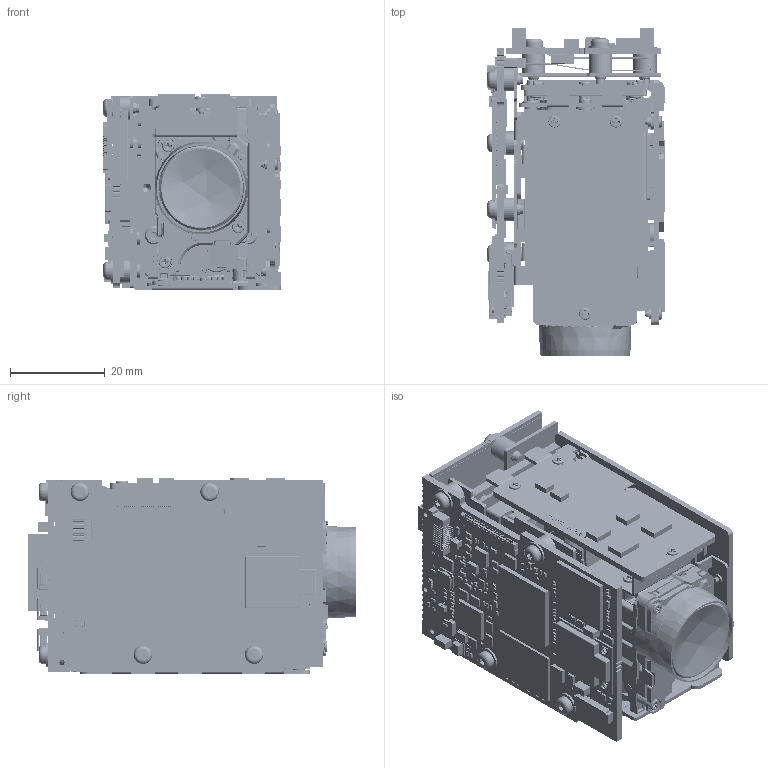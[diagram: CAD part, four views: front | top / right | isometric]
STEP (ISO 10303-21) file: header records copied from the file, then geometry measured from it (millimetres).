
FILE_DESCRIPTION( ( 'Unknown' ), '1' );
FILE_NAME( 'H:/Proj/Ap/AP29_IPLC/Tech/Hw/MM-AP29C01-0121-0101/mm-ap29c01-0121-0101.stp', 'Unknown', ( 'Unknown' ), ( 'Unknown' ), 'PSStep 17.0.49', 'Unknown', ' ' );
FILE_SCHEMA( ( 'AUTOMOTIVE_DESIGN { 1 0 10303 214 1 1 1 1 }' ) );
Length unit declared in the file: millimetre
Products named in the file (696): Lead-3; Open_CASCADE_STEP_translator_6.8_1.2.1; Lead-4; Lead-7; TMX-A001_SENSOR_Assy(OV4689); TMX-A001_S_SUB_PCB_1(OV4689); TMX-A001_PCB,SENSOR_1.2t(OV4689); TMX-A001_SCREW_1.4x3.0(WILCO); CN201(5035663300)MOLEX; TMX-A001_SENSOR(OV4689); Lead-5; Lead-1; Lead; Lead-6; Lead-2; Pin_Shape; Open_CASCADE_STEP_translator_6.8_17.4.1; 5993357248; body; TMX-A001_MAIN_Assy_0708_3; DEFAULT; DEFAULT-1; DEFAULT-2; TMX-A001_MAIN_PCB_Assy(A); TMX-A001_CON,FH39-39S-0.3SHW(10).2; CN201(5035663300)MOLEX.8; CN203(5024304010).5; USL00-30L(KEL).6; TMX-A001_MAIN_PCB_1.2t(A).7; CN204(5034802000).4; TMX-A001_POWER_PCB_ASSY(BB); TMX-A001_FPC_SUPPORT_PCB(B).4; 4; TMX-A001_FPC_of_POWER_PCB(BB).2; TMX-A001_POWER_PCB(B).3; TMX-A001_POWER_PCB(BB).1; Body; Open_CASCADE_STEP_translator_6.8_17.2.1; Terminal; Open_CASCADE_STEP_translator_6.8_3.1.1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
Assembly tree (1620 placements, depth 7):
  Assem1
    bracket-0379-0101
    G-221-096H  x4
    G-875-322T  x3
    G-582-670X  x3
    G-080-752R  x4
    G-977-016Z  x7
    flexi-03
    MP1010M-VC
      nut1_07092015  x3
      neji_chousei  x3
      TMX-A001_SCREW_1.4x3.0(WILCO)  x6
      CUSHION  x2
      TMX-A001_MAIN_Assy_0708
        TMX-A001_SCREW_1.4x4TP(WILCO)  x5
        TMX-A001_SPECIAL_SCREW_1.4(A)  x3
        TMX-A001_BRACKET,PCB(T)0.6t_0615
        TMX-A001_FPC_SENSOR_to_MAIN(A) 
        TMX-A001_FILTER_0.57MAX(A)
        TMX-A001_HONTAI(A)
        TMX-A001_HONTAI(A)
        TMX-A001_HONTAI(A)
        TMX-A001_HONTAI(A)
        TMX-A001_HONTAI(A)
        TMX-A001_HONTAI(A)
        TMX-A001_HONTAI(A)
        TMX-A001_HONTAI(A)
        TMX-A001_HONTAI(A)
        TMX-A001_HONTAI(A)
        TMX-A001_HONTAI(A)
        TMX-A001_HONTAI(A)
        TMX-A001_HONTAI(A)
        TMX-A001_HONTAI(A)
        TMX-A001_HONTAI(A)
        TMX-A001_HONTAI(A)
        TMX-A001_HONTAI(A)
        TMX-A001_HONTAI(A)
        TMX-A001_HONTAI(A)
        TMX-A001_HONTAI(A)
        TMX-A001_HONTAI(A)
        TMX-A001_HONTAI(A)
        TMX-A001_HONTAI(A)
        TMX-A001_HONTAI(A)
        TMX-A001_HONTAI(A)
        TMX-A001_HONTAI(A)
        TMX-A001_HONTAI(A)
        TMX-A001_HONTAI(A)
        TMX-A001_HONTAI(A)
        TMX-A001_HONTAI(A)
        TMX-A001_HONTAI(A)
        TMX-A001_HONTAI(A)
        TMX-A001_HONTAI(A)
        TMX-A001_HONTAI(A)
        TMX-A001_HONTAI(A)
        TMX-A001_HONTAI(A)
        TMX-A001_HONTAI(A)
        TMX-A001_HONTAI(A)
        TMX-A001_HONTAI(A)
        TMX-A001_HONTAI(A)
        TMX-A001_HONTAI(A)
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Bounding box: 37.67 x 69.35 x 41.5 mm (x, y, z)
Volume: 29535.1 mm3; surface area: 83532.5 mm2
Topology: 1222 solids, 2999 shells, 44783 faces, 129019 edges, 88831 vertices
Faces by surface type: plane 31884, cylinder 7647, bspline 2352, extrusion 1170, cone 863, revolution 308, torus 305, sphere 254
Full cylindrical faces by diameter (mm): 0.041 x1, 0.14 x1, 0.15 x1, 0.2 x2, 0.25 x1, 0.28 x67, 0.3 x1, 0.4 x2, 0.401 x1, 0.5 x1, 0.519 x1, 0.6 x13, 0.7 x1, 0.799 x2, 0.8 x11, 0.85 x1, 0.9 x9, 0.92 x4, 1 x33, 1.1 x33, 1.12 x2, 1.14 x17, 1.15 x75, 1.183 x39, 1.2 x30, 1.3 x3, 1.4 x14, 1.488 x42, 1.5 x18, 1.54 x5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
Entity records: 1516758 total; most frequent: CARTESIAN_POINT 342833, ORIENTED_EDGE 189653, DIRECTION 167462, EDGE_CURVE 100315, VECTOR 74032, LINE 72894, VERTEX_POINT 70636, AXIS2_PLACEMENT_3D 46582
